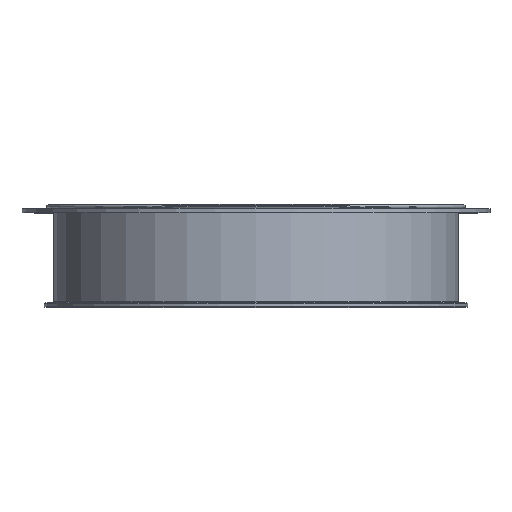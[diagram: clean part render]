
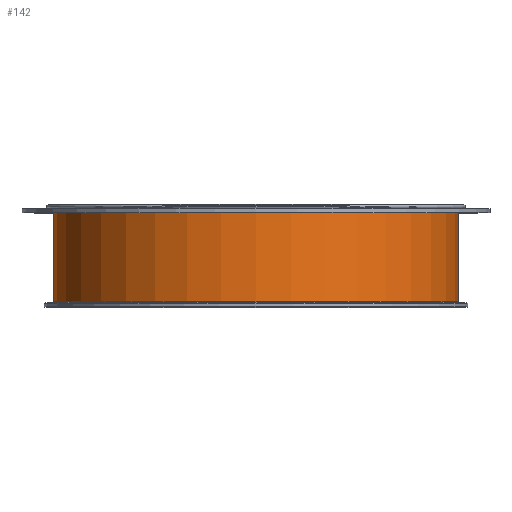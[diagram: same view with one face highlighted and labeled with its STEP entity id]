
A CAD part, top view. The second image highlights one B-rep face of the part: STEP entity #142.
In plain terms, the highlighted cylindrical face has radius 200.8 mm (diameter 401.6 mm), a full revolution.
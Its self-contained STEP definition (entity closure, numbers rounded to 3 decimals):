
#142=ADVANCED_FACE('',(#233,#234),#163,.T.);
#163=CYLINDRICAL_SURFACE('',#590,200.8);
#233=FACE_BOUND('',#313,.T.);
#234=FACE_BOUND('',#314,.T.);
#313=EDGE_LOOP('',(#393));
#314=EDGE_LOOP('',(#394));
#393=ORIENTED_EDGE('',*,*,#474,.F.);
#394=ORIENTED_EDGE('',*,*,#482,.F.);
#434=VERTEX_POINT('',#824);
#442=VERTEX_POINT('',#845);
#474=EDGE_CURVE('',#434,#434,#514,.T.);
#482=EDGE_CURVE('',#442,#442,#522,.T.);
#514=CIRCLE('',#575,200.8);
#522=CIRCLE('',#588,200.8);
#575=AXIS2_PLACEMENT_3D('',#823,#698,#699);
#588=AXIS2_PLACEMENT_3D('',#844,#724,#725);
#590=AXIS2_PLACEMENT_3D('',#847,#728,#729);
#698=DIRECTION('',(0.,-1.,0.));
#699=DIRECTION('',(-1.,0.,0.));
#724=DIRECTION('',(0.,1.,0.));
#725=DIRECTION('',(1.,0.,0.));
#728=DIRECTION('',(0.,1.,0.));
#729=DIRECTION('',(1.,0.,0.));
#823=CARTESIAN_POINT('',(0.,5.196,0.));
#824=CARTESIAN_POINT('',(-200.8,5.196,0.));
#844=CARTESIAN_POINT('',(0.,99.2,0.));
#845=CARTESIAN_POINT('',(200.8,99.2,0.));
#847=CARTESIAN_POINT('',(0.,-192.076,0.));
